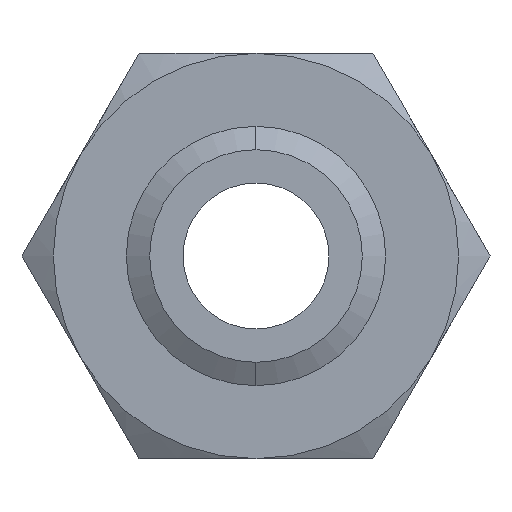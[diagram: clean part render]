
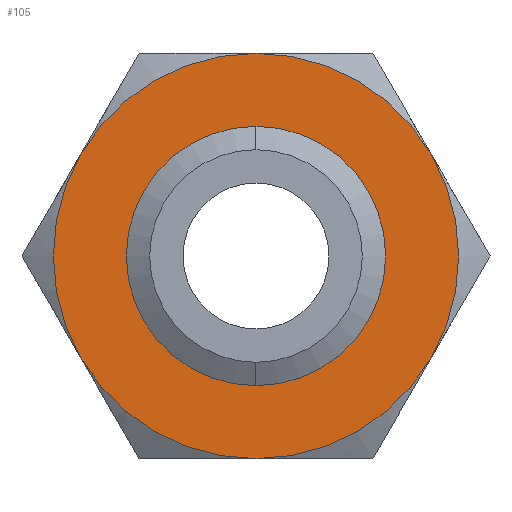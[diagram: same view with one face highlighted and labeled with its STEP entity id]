
A CAD part, front view. The second image highlights one B-rep face of the part: STEP entity #105.
In plain terms, the highlighted planar face has unit normal (0, -1, 0).
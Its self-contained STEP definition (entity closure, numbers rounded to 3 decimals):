
#105 = ADVANCED_FACE ( 'NONE', ( #392, #391 ), #390, .F. ) ;
#106 = EDGE_LOOP ( 'NONE', ( #107, #131, #127, #129, #134, #124 ) ) ;
#107 = ORIENTED_EDGE ( 'NONE', *, *, #141, .F. ) ;
#116 = EDGE_CURVE ( 'NONE', #122, #130, #435, .T. ) ;
#117 = EDGE_CURVE ( 'NONE', #140, #122, #484, .T. ) ;
#120 = ORIENTED_EDGE ( 'NONE', *, *, #123, .F. ) ;
#121 = EDGE_LOOP ( 'NONE', ( #125, #120 ) ) ;
#122 = VERTEX_POINT ( 'NONE', #473 ) ;
#123 = EDGE_CURVE ( 'NONE', #1697, #1692, #472, .T. ) ;
#124 = ORIENTED_EDGE ( 'NONE', *, *, #117, .F. ) ;
#125 = ORIENTED_EDGE ( 'NONE', *, *, #1703, .F. ) ;
#126 = EDGE_CURVE ( 'NONE', #128, #139, #467, .T. ) ;
#127 = ORIENTED_EDGE ( 'NONE', *, *, #132, .F. ) ;
#128 = VERTEX_POINT ( 'NONE', #462 ) ;
#129 = ORIENTED_EDGE ( 'NONE', *, *, #133, .F. ) ;
#130 = VERTEX_POINT ( 'NONE', #461 ) ;
#131 = ORIENTED_EDGE ( 'NONE', *, *, #126, .F. ) ;
#132 = EDGE_CURVE ( 'NONE', #135, #128, #459, .T. ) ;
#133 = EDGE_CURVE ( 'NONE', #130, #135, #515, .T. ) ;
#134 = ORIENTED_EDGE ( 'NONE', *, *, #116, .F. ) ;
#135 = VERTEX_POINT ( 'NONE', #510 ) ;
#139 = VERTEX_POINT ( 'NONE', #508 ) ;
#140 = VERTEX_POINT ( 'NONE', #507 ) ;
#141 = EDGE_CURVE ( 'NONE', #139, #140, #505, .T. ) ;
#390 = PLANE ( 'NONE',  #394 ) ;
#391 = FACE_BOUND ( 'NONE', #121, .T. ) ;
#392 = FACE_OUTER_BOUND ( 'NONE', #106, .T. ) ;
#393 = CARTESIAN_POINT ( 'NONE',  ( 21.651, 0., -37.5 ) ) ;
#394 = AXIS2_PLACEMENT_3D ( 'NONE', #393, #452, #451 ) ;
#424 = CARTESIAN_POINT ( 'NONE',  ( 0., 0., 0. ) ) ;
#433 = DIRECTION ( 'NONE',  ( 0., 1., 0. ) ) ;
#434 = AXIS2_PLACEMENT_3D ( 'NONE', #436, #433, #485 ) ;
#435 = CIRCLE ( 'NONE', #434, 37.5 ) ;
#436 = CARTESIAN_POINT ( 'NONE',  ( 0., 0., 0. ) ) ;
#451 = DIRECTION ( 'NONE',  ( 0., 0., 1. ) ) ;
#452 = DIRECTION ( 'NONE',  ( 0., 1., 0. ) ) ;
#455 = DIRECTION ( 'NONE',  ( 0., 0., 1. ) ) ;
#456 = DIRECTION ( 'NONE',  ( 0., 1., 0. ) ) ;
#457 = CARTESIAN_POINT ( 'NONE',  ( 0., 0., 0. ) ) ;
#458 = AXIS2_PLACEMENT_3D ( 'NONE', #457, #456, #455 ) ;
#459 = CIRCLE ( 'NONE', #458, 37.5 ) ;
#461 = CARTESIAN_POINT ( 'NONE',  ( 0., 0., -37.5 ) ) ;
#462 = CARTESIAN_POINT ( 'NONE',  ( -32.476, 0., 18.75 ) ) ;
#463 = DIRECTION ( 'NONE',  ( 0., 0., 1. ) ) ;
#464 = DIRECTION ( 'NONE',  ( 0., 1., 0. ) ) ;
#465 = CARTESIAN_POINT ( 'NONE',  ( 0., 0., 0. ) ) ;
#466 = AXIS2_PLACEMENT_3D ( 'NONE', #465, #464, #463 ) ;
#467 = CIRCLE ( 'NONE', #466, 37.5 ) ;
#468 = DIRECTION ( 'NONE',  ( 0., 0., -1. ) ) ;
#469 = DIRECTION ( 'NONE',  ( 0., -1., 0. ) ) ;
#470 = CARTESIAN_POINT ( 'NONE',  ( 0., 0., 0. ) ) ;
#471 = AXIS2_PLACEMENT_3D ( 'NONE', #470, #469, #468 ) ;
#472 = CIRCLE ( 'NONE', #471, 19.67 ) ;
#473 = CARTESIAN_POINT ( 'NONE',  ( 32.476, 0., -18.75 ) ) ;
#481 = DIRECTION ( 'NONE',  ( 0., 0., 1. ) ) ;
#482 = DIRECTION ( 'NONE',  ( 0., 1., 0. ) ) ;
#483 = AXIS2_PLACEMENT_3D ( 'NONE', #424, #482, #481 ) ;
#484 = CIRCLE ( 'NONE', #483, 37.5 ) ;
#485 = DIRECTION ( 'NONE',  ( 0., 0., 1. ) ) ;
#501 = DIRECTION ( 'NONE',  ( 0., 0., 1. ) ) ;
#502 = DIRECTION ( 'NONE',  ( 0., 1., 0. ) ) ;
#503 = CARTESIAN_POINT ( 'NONE',  ( 0., 0., 0. ) ) ;
#504 = AXIS2_PLACEMENT_3D ( 'NONE', #503, #502, #501 ) ;
#505 = CIRCLE ( 'NONE', #504, 37.5 ) ;
#507 = CARTESIAN_POINT ( 'NONE',  ( 32.476, 0., 18.75 ) ) ;
#508 = CARTESIAN_POINT ( 'NONE',  ( 0., 0., 37.5 ) ) ;
#510 = CARTESIAN_POINT ( 'NONE',  ( -32.476, 0., -18.75 ) ) ;
#511 = DIRECTION ( 'NONE',  ( 0., 0., 1. ) ) ;
#512 = DIRECTION ( 'NONE',  ( 0., 1., 0. ) ) ;
#513 = CARTESIAN_POINT ( 'NONE',  ( 0., 0., 0. ) ) ;
#514 = AXIS2_PLACEMENT_3D ( 'NONE', #513, #512, #511 ) ;
#515 = CIRCLE ( 'NONE', #514, 37.5 ) ;
#756 = DIRECTION ( 'NONE',  ( 0., 0., -1. ) ) ;
#757 = DIRECTION ( 'NONE',  ( 0., -1., 0. ) ) ;
#758 = CARTESIAN_POINT ( 'NONE',  ( 0., 0., 0. ) ) ;
#759 = AXIS2_PLACEMENT_3D ( 'NONE', #758, #757, #756 ) ;
#760 = CIRCLE ( 'NONE', #759, 19.67 ) ;
#771 = CARTESIAN_POINT ( 'NONE',  ( 0., 0., 19.67 ) ) ;
#773 = CARTESIAN_POINT ( 'NONE',  ( 0., 0., -19.67 ) ) ;
#1692 = VERTEX_POINT ( 'NONE', #773 ) ;
#1697 = VERTEX_POINT ( 'NONE', #771 ) ;
#1703 = EDGE_CURVE ( 'NONE', #1692, #1697, #760, .T. ) ;
